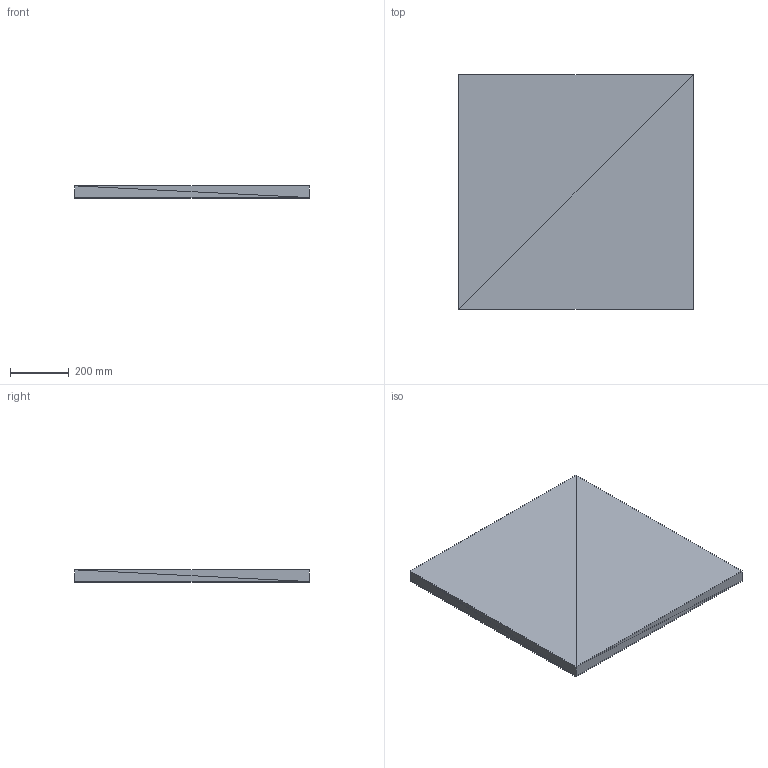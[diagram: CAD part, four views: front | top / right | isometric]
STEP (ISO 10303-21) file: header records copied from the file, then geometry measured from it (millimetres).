
FILE_DESCRIPTION(('ISINAC STEP AP214'),'2;1');
FILE_NAME('ISINAC_C.800_40mm_IMANTADA','2026-05-03T10:49:19',('ISINAC'),('www.isinac.com'),'ISINAC BIM Generator 1.0','','');
FILE_SCHEMA(('AUTOMOTIVE_DESIGN'));
Length unit declared in the file: millimetre
Products named in the file (1): ISINAC_C.800_40mm_IMANTADA
Bounding box: 800 x 800 x 42 mm (x, y, z)
Surface area: 2694400 mm2 (no closed solid volume)
Topology: 0 solids, 24 shells, 24 faces, 72 edges, 72 vertices
Faces by surface type: plane 24
Entity records: 277 total; most frequent: CARTESIAN_POINT 96, DIRECTION 48, POLY_LOOP 24, FACE_OUTER_BOUND 24, AXIS2_PLACEMENT_3D 24, PLANE 24, FACE_SURFACE 24, CLOSED_SHELL 1
